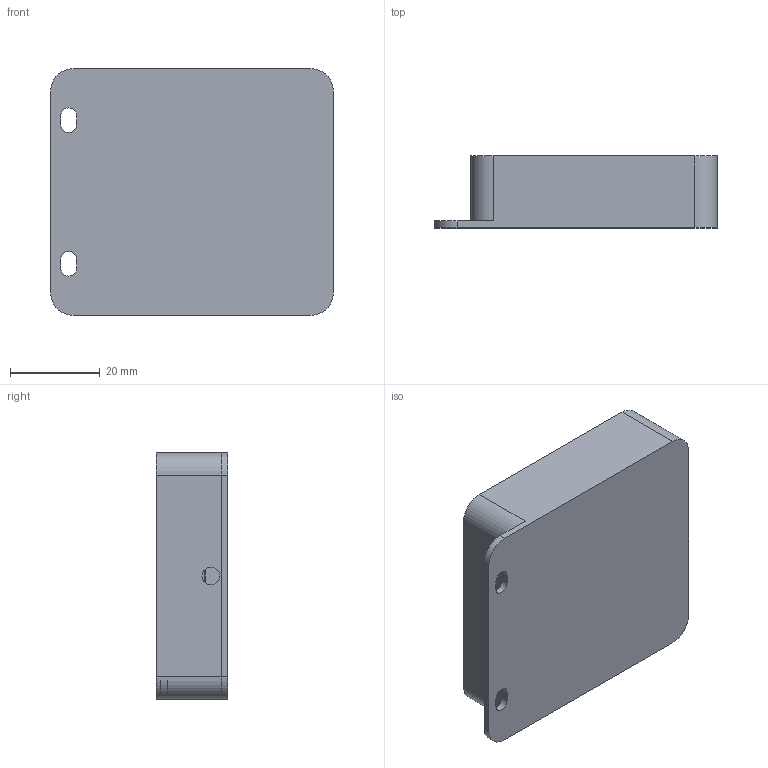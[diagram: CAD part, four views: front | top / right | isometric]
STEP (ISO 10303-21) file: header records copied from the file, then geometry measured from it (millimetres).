
FILE_DESCRIPTION (( 'STEP AP203' ), '1' );
FILE_NAME ('LRD-F50.STEP', '2024-07-30T08:23:53', ( '' ), ( '' ), 'SwSTEP 2.0', 'SolidWorks 2018', '' );
FILE_SCHEMA (( 'CONFIG_CONTROL_DESIGN' ));
Length unit declared in the file: millimetre
Products named in the file (5): 50 50.STEP; pcb.STEP; STBL-50-50.STEP; ______.STEP; LRD-F50
Assembly tree (4 placements, depth 3):
  LRD-F50
    STBL-50-50.STEP
      50 50.STEP
      ______.STEP
      pcb.STEP
Bounding box: 63 x 16 x 55 mm (x, y, z)
Volume: 28331.1 mm3; surface area: 23944.1 mm2
Topology: 3 solids, 3 shells, 96 faces, 252 edges, 168 vertices
Faces by surface type: cylinder 52, plane 44
Entity records: 3561 total; most frequent: DIRECTION 566, CARTESIAN_POINT 524, ORIENTED_EDGE 504, EDGE_CURVE 252, AXIS2_PLACEMENT_3D 210, VERTEX_POINT 168, VECTOR 146, LINE 146
